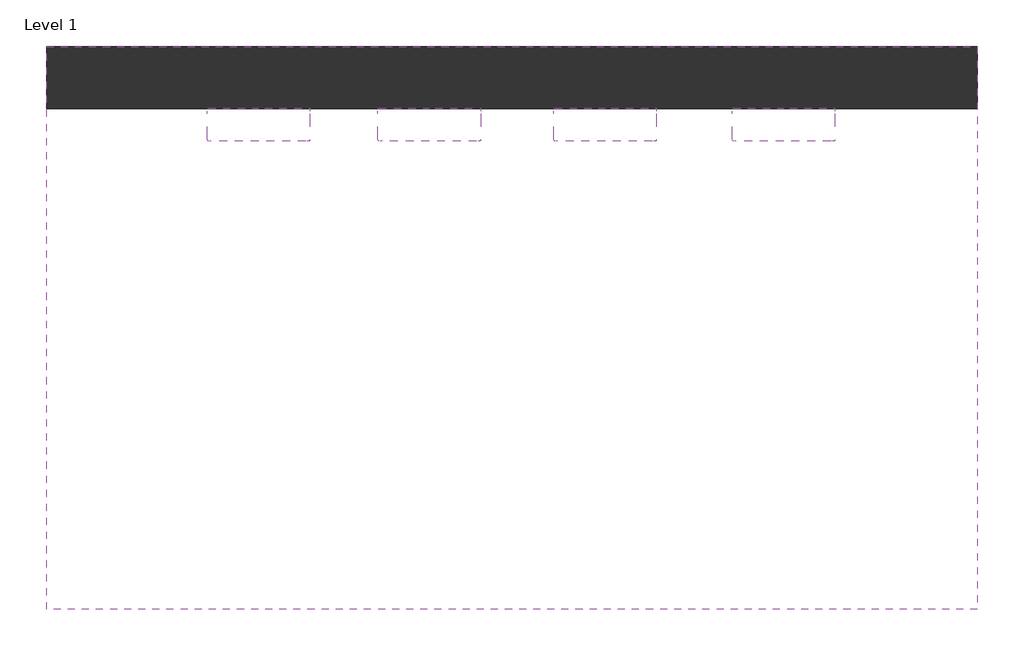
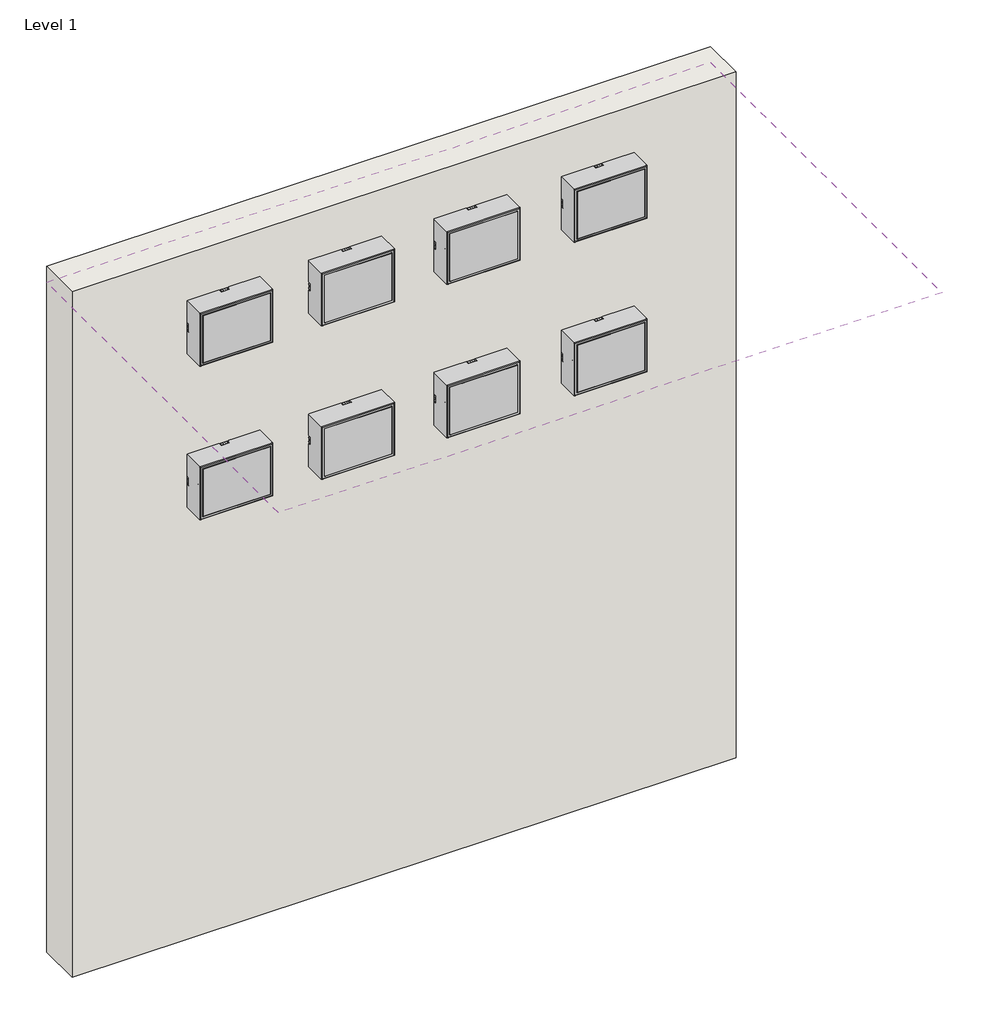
# One storey: 8 proxies, 1 covering, 1 wall.
"""IFC4 building model written with IfcOpenShell, lengths in millimetres."""

import ifcopenshell
import ifcopenshell.guid

model = None  # the IFC model being written
_history = None  # IfcOwnerHistory: only IFC2X3 demands one
_inside = {}  # id of a spatial element -> (the spatial element, [elements in it])
_under = {}  # id of a project, library or spatial element -> (it, [spatial elements below it])
_declared = {}  # id of a project -> (the project, [libraries it declares])
_typed = {}  # id of a type object -> (the type object, [elements of that type])
_made_of = {}  # id of a material, layer set ... -> (it, [elements and type objects made of it])


def new_model(schema):
    """Start an empty IFC model of exactly this schema.

    Asked for "IFC4X3", IfcOpenShell would pick the latest addendum, in which some entities
    have other attributes; the version numbers below select the first issue.
    IFC2X3 requires an IfcOwnerHistory on every rooted entity: one is made here for all.
    """
    global model, _history
    if schema == "IFC4X3":
        model = ifcopenshell.file(schema_version=(4, 3, 0, 0))
    else:
        model = ifcopenshell.file(schema=schema)
    _inside.clear()
    _under.clear()
    _declared.clear()
    _typed.clear()
    _made_of.clear()
    _history = None
    if model.schema == "IFC2X3":
        org = make("IfcOrganization", Name="unknown")
        user = make(
            "IfcPersonAndOrganization",
            ThePerson=make("IfcPerson", FamilyName="unknown"),
            TheOrganization=org,
        )
        app = make(
            "IfcApplication",
            ApplicationDeveloper=org,
            Version="unknown",
            ApplicationFullName="unknown",
            ApplicationIdentifier="unknown",
        )
        _history = make(
            "IfcOwnerHistory",
            OwningUser=user,
            OwningApplication=app,
            ChangeAction="ADDED",
            CreationDate=0,
        )
    return model


def make(cls, **values):
    """One entity of the class cls with the attributes given. An attribute that is None is left unset."""
    return model.create_entity(
        cls, **{name: value for name, value in values.items() if value is not None}
    )


def rooted(cls, **values):
    """An entity with a GlobalId (a new one), such as an element, a storey or a relation."""
    return make(cls, GlobalId=ifcopenshell.guid.new(), OwnerHistory=_history, **values)


def si_unit(unit_type, name, prefix=None):
    """IfcSIUnit, for example si_unit("LENGTHUNIT", "METRE", prefix="MILLI")."""
    return make("IfcSIUnit", UnitType=unit_type, Prefix=prefix, Name=name)


def assignment(units):
    """IfcUnitAssignment: the units of a project."""
    return None if units is None else make("IfcUnitAssignment", Units=units)


def point(xyz):
    """IfcCartesianPoint."""
    return None if xyz is None else make("IfcCartesianPoint", Coordinates=xyz)


def direction(xyz):
    """IfcDirection."""
    return None if xyz is None else make("IfcDirection", DirectionRatios=xyz)


def frame(location, z_axis=None, x_axis=None):
    """IfcAxis2Placement3D, a coordinate frame: its origin and axes. An axis left out is left unset."""
    return make(
        "IfcAxis2Placement3D",
        Location=point(location),
        Axis=direction(z_axis),
        RefDirection=direction(x_axis),
    )


def frame_2d(location, x_axis=None):
    """IfcAxis2Placement2D, a coordinate frame in the plane: its origin and x axis."""
    return make(
        "IfcAxis2Placement2D", Location=point(location), RefDirection=direction(x_axis)
    )


def origin():
    """The frame at (0, 0, 0) with its axes left unset."""
    return frame((0.0, 0.0, 0.0))


def origin_with_axes():
    """The frame at (0, 0, 0) with the z axis (0, 0, 1) and the x axis (1, 0, 0) written out."""
    return frame((0.0, 0.0, 0.0), z_axis=(0.0, 0.0, 1.0), x_axis=(1.0, 0.0, 0.0))


def place(relative_to, where):
    """IfcLocalPlacement: puts the frame where relative to a parent placement (None: the world)."""
    return make(
        "IfcLocalPlacement", PlacementRelTo=relative_to, RelativePlacement=where
    )


def context(
    kind, dimensions, precision=None, world=None, true_north=None, identifier=None
):
    """IfcGeometricRepresentationContext, for example the 3D "Model" context."""
    return make(
        "IfcGeometricRepresentationContext",
        ContextIdentifier=identifier,
        ContextType=kind,
        CoordinateSpaceDimension=dimensions,
        Precision=precision,
        WorldCoordinateSystem=world,
        TrueNorth=true_north,
    )


def project(units=None, contexts=None):
    """IfcProject with its units and contexts."""
    return rooted(
        "IfcProject",
        Name="project",
        RepresentationContexts=contexts,
        UnitsInContext=assignment(units),
    )


def spatial(cls, under=None, at=None, **own):
    """A site, building, storey or space (cls), placed at a placement, below another one or the project."""
    s = rooted(cls, ObjectPlacement=at, **own)
    if under is not None:
        _under.setdefault(under.id(), (under, []))[1].append(s)
    return s


def polyline(points):
    """IfcPolyline through the points."""
    return make("IfcPolyline", Points=[point(p) for p in points])


def circle_curve(where, radius):
    """IfcCircle in the frame where."""
    return make("IfcCircle", Position=where, Radius=radius)


def ellipse_curve(where, semi_axis1, semi_axis2):
    """IfcEllipse in the frame where."""
    return make(
        "IfcEllipse", Position=where, SemiAxis1=semi_axis1, SemiAxis2=semi_axis2
    )


def trimmed(basis, trim1, trim2, sense, master):
    """IfcTrimmedCurve: the piece of a basis curve between two trims."""
    return make(
        "IfcTrimmedCurve",
        BasisCurve=basis,
        Trim1=trim1,
        Trim2=trim2,
        SenseAgreement=sense,
        MasterRepresentation=master,
    )


def segment(curve, same_sense, transition):
    """IfcCompositeCurveSegment."""
    return make(
        "IfcCompositeCurveSegment",
        Transition=transition,
        SameSense=same_sense,
        ParentCurve=curve,
    )


def composite_curve(segments, self_intersect=None):
    """IfcCompositeCurve: segments joined end to end."""
    return make("IfcCompositeCurve", Segments=segments, SelfIntersect=self_intersect)


def outline(outer, holes=None, kind="AREA"):
    """IfcArbitraryClosedProfileDef: a profile drawn as a closed curve; with holes, ...WithVoids."""
    if holes is None:
        return make("IfcArbitraryClosedProfileDef", ProfileType=kind, OuterCurve=outer)
    return make(
        "IfcArbitraryProfileDefWithVoids",
        ProfileType=kind,
        OuterCurve=outer,
        InnerCurves=holes,
    )


def extrude(swept, where, along, depth):
    """IfcExtrudedAreaSolid: the profile swept, set in the frame where, extruded along a direction by depth."""
    return make(
        "IfcExtrudedAreaSolid",
        SweptArea=swept,
        Position=where,
        ExtrudedDirection=direction(along),
        Depth=depth,
    )


def shape(context_of_items, identifier, shape_type, items):
    """IfcShapeRepresentation: the items that make up one representation, for example the "Body"."""
    return make(
        "IfcShapeRepresentation",
        ContextOfItems=context_of_items,
        RepresentationIdentifier=identifier,
        RepresentationType=shape_type,
        Items=items,
    )


def source(mapping_origin, context_of_items, identifier, shape_type, items):
    """IfcRepresentationMap: a shape defined once, which mapped items show again and again."""
    return make(
        "IfcRepresentationMap",
        MappingOrigin=mapping_origin,
        MappedRepresentation=shape(context_of_items, identifier, shape_type, items),
    )


def transform(
    local_origin,
    x_axis=None,
    y_axis=None,
    z_axis=None,
    scale=None,
    scale2=None,
    scale3=None,
    uniform=True,
):
    """IfcCartesianTransformationOperator3D, or its non-uniform kind. x_axis, y_axis, z_axis: its Axis1, 2, 3."""
    if uniform:
        return make(
            "IfcCartesianTransformationOperator3D",
            Axis1=direction(x_axis),
            Axis2=direction(y_axis),
            LocalOrigin=point(local_origin),
            Scale=scale,
            Axis3=direction(z_axis),
        )
    return make(
        "IfcCartesianTransformationOperator3DnonUniform",
        Axis1=direction(x_axis),
        Axis2=direction(y_axis),
        LocalOrigin=point(local_origin),
        Scale=scale,
        Axis3=direction(z_axis),
        Scale2=scale2,
        Scale3=scale3,
    )


def mapped(mapping_source, mapping_target):
    """IfcMappedItem: shows the shape of a source again, moved by a transform."""
    return make(
        "IfcMappedItem", MappingSource=mapping_source, MappingTarget=mapping_target
    )


def made_of(thing, what):
    """Note that an element or type object is made of a material, layer set ...; save() writes the relation."""
    if what is not None:
        _made_of.setdefault(what.id(), (what, []))[1].append(thing)
    return thing


def element(
    cls,
    number,
    at=None,
    inside=None,
    cuts=None,
    type_object=None,
    material=None,
    context=None,
    identifier="Body",
    shape_type=None,
    held_by="IfcProductDefinitionShape",
    body=None,
    shapes=None,
    **own,
):
    """One element of the class cls, such as IfcWall. Its Tag is "e" and its number.

    at: its placement. inside: the storey or other place that contains it. cuts: it is an
    opening in that element (IfcRelVoidsElement). A single representation is given by context,
    identifier, shape_type and body (its items); several are given by shapes. held_by: the class
    of the entity that holds the representations. save() writes the other relations.
    """
    e = rooted(cls, Tag="e%d" % number, ObjectPlacement=at, **own)
    if body is not None:
        shapes = [shape(context, identifier, shape_type, body)]
    if shapes is not None:
        e.Representation = make(held_by, Representations=shapes)
    if inside is not None:
        _inside.setdefault(inside.id(), (inside, []))[1].append(e)
    if cuts is not None:
        rooted(
            "IfcRelVoidsElement", RelatingBuildingElement=cuts, RelatedOpeningElement=e
        )
    if type_object is not None:
        _typed.setdefault(type_object.id(), (type_object, []))[1].append(e)
    return made_of(e, material)


def aggregate(whole, parts):
    """IfcRelAggregates: a whole, such as a stair, and the parts it consists of."""
    return rooted("IfcRelAggregates", RelatingObject=whole, RelatedObjects=parts)


def save(model, path):
    """Write the relations noted so far, then the file.

    IfcRelAggregates (storeys below a building ...), IfcRelContainedInSpatialStructure (elements
    in a storey), IfcRelDefinesByType, IfcRelAssociatesMaterial and IfcRelDeclares: one each for
    every whole, place, type object, material and project.
    """
    for whole, parts in _under.values():
        aggregate(whole, parts)
    for where, things in _inside.values():
        rooted(
            "IfcRelContainedInSpatialStructure",
            RelatedElements=things,
            RelatingStructure=where,
        )
    for kind, things in _typed.values():
        rooted("IfcRelDefinesByType", RelatedObjects=things, RelatingType=kind)
    for what, things in _made_of.values():
        rooted("IfcRelAssociatesMaterial", RelatedObjects=things, RelatingMaterial=what)
    for by, libraries in _declared.values():
        rooted("IfcRelDeclares", RelatingContext=by, RelatedDefinitions=libraries)
    model.write(path)


def plane_surface(at):
    """IfcPlane: the flat surface through the origin of the frame at, square to its z axis."""
    return make("IfcPlane", Position=at)


def cylinder_surface(at, radius):
    """IfcCylindricalSurface: all points at the distance radius from the z axis of the frame at."""
    return make("IfcCylindricalSurface", Position=at, Radius=radius)


def revolved_surface(curve, axis_point, axis_direction):
    """IfcSurfaceOfRevolution: the curve turned about the line through axis_point along axis_direction."""
    return make(
        "IfcSurfaceOfRevolution",
        SweptCurve=make("IfcArbitraryOpenProfileDef", ProfileType="CURVE", Curve=curve),
        AxisPosition=make("IfcAxis1Placement", Location=point(axis_point), Axis=direction(axis_direction)),
    )


def advanced_brep(points, edges, surfaces, faces):
    """IfcAdvancedBrep: a solid bounded by faces that lie on surfaces and meet in shared edges.

    An edge is (start, end): straight between two places in points (the first is 0);
    or (start, end, curve); or (start, end, curve, False) where it runs against its curve.
    A face is (place in surfaces, loops), or (place, loops, False) where it looks against
    its surface's normal. A loop lists edges by number (the first is 1), with a minus sign
    where the edge is run from its end to its start. The first loop is the outer one.
    """
    corners = [point(p) for p in points]
    vertices = [make("IfcVertexPoint", VertexGeometry=c) for c in corners]
    made = []
    for start, end, *more in edges:
        made.append(
            make(
                "IfcEdgeCurve",
                EdgeStart=vertices[start],
                EdgeEnd=vertices[end],
                EdgeGeometry=more[0] if more else make("IfcPolyline", Points=[corners[start], corners[end]]),
                SameSense=more[1] if len(more) > 1 else True,
            )
        )
    hull = []
    for where, loops, *sense in faces:
        bounds = []
        for j, loop in enumerate(loops):
            ring = [make("IfcOrientedEdge", EdgeElement=made[abs(k) - 1], Orientation=k > 0) for k in loop]
            bounds.append(
                make(
                    "IfcFaceOuterBound" if j == 0 else "IfcFaceBound",
                    Bound=make("IfcEdgeLoop", EdgeList=ring),
                    Orientation=True,
                )
            )
        hull.append(make("IfcAdvancedFace", Bounds=bounds, FaceSurface=surfaces[where], SameSense=sense[0] if sense else True))
    return make("IfcAdvancedBrep", Outer=make("IfcClosedShell", CfsFaces=hull))


def communication_devices_d5c68b10(model_context):
    return source(origin(), model_context, "Body", "SolidModel", [
        extrude(outline(polyline([(115.9375, 0.0), (-115.9375, 0.0), (-115.9375, 79.3158883), (115.9375, 79.3158883), (115.9375, 0.0)])), frame((0.0, 0.0, 10.0), z_axis=(0.0, 0.0, 1.0), x_axis=(1.0, 0.0, 0.0)), (0.0, 0.0, 1.0), 172.0),
        advanced_brep(
        [(115.9375, 1.0, 182.0), (115.9375, 20.0, 182.0), (115.9375, 20.0, 10.0), (115.9375, 1.0, 10.0), (125.9375, 81.0, 192.0), (125.9375, 3.0, 192.0), (125.9375, 3.0, 0.0), (125.9375, 81.0, 0.0), (125.9375, 81.0, 84.4435161), (125.9375, 67.0, 84.4435161), (125.9375, 67.0, 114.4435161), (125.9375, 81.0, 114.4435161), (-115.9375, 20.0, 10.0), (-115.9375, 1.0, 10.0), (-125.9375, 3.0, 0.0), (-125.9375, 81.0, 0.0), (-115.9375, 20.0, 182.0), (-115.9375, 1.0, 182.0), (-125.9375, 3.0, 192.0), (-125.9375, 81.0, 192.0), (-125.9375, 81.0, 114.4435161), (-125.9375, 67.0, 114.4435161), (-125.9375, 67.0, 84.4435161), (-125.9375, 81.0, 84.4435161), (-125.1728092, 81.0, 84.4435161), (-125.1728092, 81.0, 114.4435161), (-15.0, 81.0, 192.0), (-15.0, 81.0, 191.2353092), (15.0, 81.0, 191.2353092), (15.0, 81.0, 192.0), (125.1728092, 81.0, 114.4435161), (125.1728092, 81.0, 84.4435161), (123.5504381, 81.0, 189.6129381), (-123.5504381, 81.0, 189.6129381), (-123.5504381, 81.0, 2.3870619), (123.5504381, 81.0, 2.3870619), (122.9375, 0.0, 189.0), (-122.9375, 0.0, 189.0), (-122.9375, 0.0, 3.0), (122.9375, 0.0, 3.0), (116.9375, 0.0, 9.0), (-116.9375, 0.0, 9.0), (-116.9375, 0.0, 183.0), (116.9375, 0.0, 183.0), (15.0, 67.0, 192.0), (-15.0, 67.0, 192.0), (123.5504381, 20.0, 2.3870619), (123.5504381, 20.0, 189.6129381), (-123.5504381, 20.0, 2.3870619), (-123.5504381, 20.0, 189.6129381), (-15.0, 67.0, 191.2353092), (15.0, 67.0, 191.2353092), (-3.2462961, 74.5017436, 191.2353092), (-11.2462961, 74.5017436, 191.2353092), (11.2462961, 74.5017436, 191.2353092), (3.2462961, 74.5017436, 191.2353092), (-11.2462961, 74.5017436, 191.0035436), (-3.2462961, 74.5017436, 191.0035436), (3.2462961, 74.5017436, 191.0035436), (11.2462961, 74.5017436, 191.0035436), (-125.1728092, 67.0, 84.4435161), (-125.1728092, 67.0, 114.4435161), (-125.1728092, 74.5017436, 96.19722), (-125.1728092, 74.5017436, 88.19722), (-125.1728092, 74.5017436, 110.6898121), (-125.1728092, 74.5017436, 102.6898121), (-124.9410436, 74.5017436, 88.19722), (-124.9410436, 74.5017436, 96.19722), (-124.9410436, 74.5017436, 102.6898121), (-124.9410436, 74.5017436, 110.6898121), (125.1728092, 67.0, 114.4435161), (125.1728092, 67.0, 84.4435161), (125.1728092, 74.5017436, 88.19722), (125.1728092, 74.5017436, 96.19722), (125.1728092, 74.5017436, 102.6898121), (125.1728092, 74.5017436, 110.6898121), (124.9410436, 74.5017436, 88.19722), (124.9410436, 74.5017436, 96.19722), (124.9410436, 74.5017436, 102.6898121), (124.9410436, 74.5017436, 110.6898121)],
        [
            (0, 1),
            (1, 2),
            (2, 3),
            (3, 0),
            (4, 5),
            (5, 6),
            (6, 7),
            (7, 8),
            (8, 9),
            (9, 10),
            (10, 11),
            (11, 4),
            (2, 12),
            (12, 13),
            (13, 3),
            (6, 14),
            (14, 15),
            (15, 7),
            (12, 16),
            (16, 17),
            (17, 13),
            (14, 18),
            (18, 19),
            (19, 20),
            (20, 21),
            (21, 22),
            (22, 23),
            (23, 15),
            (23, 24),
            (24, 25),
            (25, 20),
            (19, 26),
            (26, 27),
            (27, 28),
            (28, 29),
            (29, 4),
            (11, 30),
            (30, 31),
            (31, 8),
            (32, 33),
            (33, 34),
            (34, 35),
            (35, 32),
            (0, 17),
            (16, 1),
            (36, 37),
            (37, 38),
            (38, 39),
            (39, 36),
            (40, 41),
            (41, 42),
            (42, 43),
            (43, 40),
            (29, 44),
            (44, 45),
            (45, 26),
            (18, 5),
            (5, 36, ellipse_curve(frame((122.9375, 3.0, 189.0), z_axis=(0.7071067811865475, 0.0, -0.7071067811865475), x_axis=(0.7071067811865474, 0.0, 0.7071067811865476)), 4.2426407, 3.0)),
            (39, 6, ellipse_curve(frame((122.9375, 3.0, 3.0), z_axis=(0.7071067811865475, 0.0, 0.7071067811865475), x_axis=(-0.7071067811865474, 0.0, 0.7071067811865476)), 4.2426407, 3.0)),
            (38, 14, ellipse_curve(frame((-122.9375, 3.0, 3.0), z_axis=(0.7071067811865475, 0.0, -0.7071067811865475), x_axis=(0.7071067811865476, 0.0, 0.7071067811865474)), 4.2426407, 3.0)),
            (37, 18, ellipse_curve(frame((-122.9375, 3.0, 189.0), z_axis=(-0.7071067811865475, 0.0, -0.7071067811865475), x_axis=(0.7071067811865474, 0.0, -0.7071067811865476)), 4.2426407, 3.0)),
            (3, 40, ellipse_curve(frame((116.9375, 1.0, 9.0), z_axis=(0.7071067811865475, 0.0, 0.7071067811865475), x_axis=(-0.7071067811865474, 0.0, 0.7071067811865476)), 1.4142136, 1.0)),
            (43, 0, ellipse_curve(frame((116.9375, 1.0, 183.0), z_axis=(0.7071067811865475, 0.0, -0.7071067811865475), x_axis=(0.7071067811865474, 0.0, 0.7071067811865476)), 1.4142136, 1.0)),
            (13, 41, ellipse_curve(frame((-116.9375, 1.0, 9.0), z_axis=(0.7071067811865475, 0.0, -0.7071067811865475), x_axis=(0.7071067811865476, 0.0, 0.7071067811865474)), 1.4142136, 1.0)),
            (17, 42, ellipse_curve(frame((-116.9375, 1.0, 183.0), z_axis=(-0.7071067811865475, 0.0, -0.7071067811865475), x_axis=(0.7071067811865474, 0.0, -0.7071067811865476)), 1.4142136, 1.0)),
            (35, 46),
            (46, 47),
            (47, 32),
            (34, 48),
            (48, 46),
            (33, 49),
            (49, 48),
            (47, 49),
            (27, 50),
            (50, 51),
            (51, 28),
            (52, 53, circle_curve(frame((-7.2462961, 74.5017436, 191.2353092), z_axis=(0.0, 0.0, -1.0), x_axis=(1.0, 0.0, 0.0)), 4.0)),
            (53, 52, circle_curve(frame((-7.2462961, 74.5017436, 191.2353092), z_axis=(0.0, 0.0, -1.0), x_axis=(1.0, 0.0, 0.0)), 4.0)),
            (54, 55, circle_curve(frame((7.2462961, 74.5017436, 191.2353092), z_axis=(0.0, 0.0, -1.0), x_axis=(1.0, 0.0, 0.0)), 4.0)),
            (55, 54, circle_curve(frame((7.2462961, 74.5017436, 191.2353092), z_axis=(0.0, 0.0, -1.0), x_axis=(1.0, 0.0, 0.0)), 4.0)),
            (45, 50),
            (44, 51),
            (56, 57, circle_curve(frame((-7.2462961, 74.5017436, 191.0035436), z_axis=(0.0, 0.0, 1.0), x_axis=(1.0, 0.0, 0.0)), 4.0)),
            (57, 56, circle_curve(frame((-7.2462961, 74.5017436, 191.0035436), z_axis=(0.0, 0.0, 1.0), x_axis=(1.0, 0.0, 0.0)), 4.0)),
            (58, 59, circle_curve(frame((7.2462961, 74.5017436, 191.0035436), z_axis=(0.0, 0.0, 1.0), x_axis=(1.0, 0.0, 0.0)), 4.0)),
            (59, 58, circle_curve(frame((7.2462961, 74.5017436, 191.0035436), z_axis=(0.0, 0.0, 1.0), x_axis=(1.0, 0.0, 0.0)), 4.0)),
            (56, 53),
            (52, 57),
            (58, 55),
            (54, 59),
            (60, 61),
            (61, 25),
            (24, 60),
            (62, 63, circle_curve(frame((-125.1728092, 74.5017436, 92.19722), z_axis=(1.0, 0.0, 0.0), x_axis=(0.0, 0.0, 1.0)), 4.0)),
            (63, 62, circle_curve(frame((-125.1728092, 74.5017436, 92.19722), z_axis=(1.0, 0.0, 0.0), x_axis=(0.0, 0.0, 1.0)), 4.0)),
            (64, 65, circle_curve(frame((-125.1728092, 74.5017436, 106.6898121), z_axis=(1.0, 0.0, 0.0), x_axis=(0.0, 0.0, 1.0)), 4.0)),
            (65, 64, circle_curve(frame((-125.1728092, 74.5017436, 106.6898121), z_axis=(1.0, 0.0, 0.0), x_axis=(0.0, 0.0, 1.0)), 4.0)),
            (22, 60),
            (21, 61),
            (66, 67, circle_curve(frame((-124.9410436, 74.5017436, 92.19722), z_axis=(-1.0, 0.0, 0.0), x_axis=(0.0, 0.0, 1.0)), 4.0)),
            (67, 66, circle_curve(frame((-124.9410436, 74.5017436, 92.19722), z_axis=(-1.0, 0.0, 0.0), x_axis=(0.0, 0.0, 1.0)), 4.0)),
            (68, 69, circle_curve(frame((-124.9410436, 74.5017436, 106.6898121), z_axis=(-1.0, 0.0, 0.0), x_axis=(0.0, 0.0, 1.0)), 4.0)),
            (69, 68, circle_curve(frame((-124.9410436, 74.5017436, 106.6898121), z_axis=(-1.0, 0.0, 0.0), x_axis=(0.0, 0.0, 1.0)), 4.0)),
            (66, 63),
            (62, 67),
            (68, 65),
            (64, 69),
            (70, 71),
            (71, 31),
            (30, 70),
            (72, 73, circle_curve(frame((125.1728092, 74.5017436, 92.19722), z_axis=(-1.0, 0.0, 0.0), x_axis=(0.0, 0.0, 1.0)), 4.0)),
            (73, 72, circle_curve(frame((125.1728092, 74.5017436, 92.19722), z_axis=(-1.0, 0.0, 0.0), x_axis=(0.0, 0.0, 1.0)), 4.0)),
            (74, 75, circle_curve(frame((125.1728092, 74.5017436, 106.6898121), z_axis=(-1.0, 0.0, 0.0), x_axis=(0.0, 0.0, 1.0)), 4.0)),
            (75, 74, circle_curve(frame((125.1728092, 74.5017436, 106.6898121), z_axis=(-1.0, 0.0, 0.0), x_axis=(0.0, 0.0, 1.0)), 4.0)),
            (71, 9),
            (70, 10),
            (76, 77, circle_curve(frame((124.9410436, 74.5017436, 92.19722), z_axis=(1.0, 0.0, 0.0), x_axis=(0.0, 0.0, 1.0)), 4.0)),
            (77, 76, circle_curve(frame((124.9410436, 74.5017436, 92.19722), z_axis=(1.0, 0.0, 0.0), x_axis=(0.0, 0.0, 1.0)), 4.0)),
            (78, 79, circle_curve(frame((124.9410436, 74.5017436, 106.6898121), z_axis=(1.0, 0.0, 0.0), x_axis=(0.0, 0.0, 1.0)), 4.0)),
            (79, 78, circle_curve(frame((124.9410436, 74.5017436, 106.6898121), z_axis=(1.0, 0.0, 0.0), x_axis=(0.0, 0.0, 1.0)), 4.0)),
            (77, 73),
            (72, 76),
            (79, 75),
            (74, 78),
        ],
        [
            plane_surface(frame((115.9375, 20.0, 182.0), z_axis=(-1.0, 0.0, 0.0), x_axis=(0.0, 0.0, -1.0))),
            plane_surface(frame((125.9375, 3.0, 192.0), z_axis=(1.0, 0.0, 0.0), x_axis=(0.0, 0.0, -1.0))),
            plane_surface(frame((115.9375, 20.0, 10.0), z_axis=(0.0, 0.0, 1.0), x_axis=(-1.0, 0.0, 0.0))),
            plane_surface(frame((125.9375, 3.0, 0.0), z_axis=(0.0, 0.0, -1.0), x_axis=(-1.0, 0.0, 0.0))),
            plane_surface(frame((-115.9375, 20.0, 10.0), z_axis=(1.0, 0.0, 0.0), x_axis=(0.0, 0.0, 1.0))),
            plane_surface(frame((-125.9375, 3.0, 0.0), z_axis=(-1.0, 0.0, 0.0), x_axis=(0.0, 0.0, 1.0))),
            plane_surface(frame((-125.9375, 81.0, 192.0), z_axis=(0.0, 1.0, 0.0), x_axis=(1.0, 0.0, 0.0))),
            plane_surface(frame((-115.9375, 20.0, 182.0), z_axis=(0.0, 0.0, -1.0), x_axis=(1.0, 0.0, 0.0))),
            plane_surface(frame((-116.9375, 0.0, 183.0), z_axis=(0.0, -1.0, 0.0), x_axis=(1.0, 0.0, 0.0))),
            plane_surface(frame((-125.9375, 3.0, 192.0), z_axis=(0.0, 0.0, 1.0), x_axis=(1.0, 0.0, 0.0))),
            cylinder_surface(frame((122.9375, 3.0, 192.0), z_axis=(0.0, 0.0, 1.0), x_axis=(1.0, 0.0, 0.0)), 3.0),
            cylinder_surface(frame((125.9375, 3.0, 3.0), z_axis=(1.0, 0.0, 0.0), x_axis=(0.0, 0.0, -1.0)), 3.0),
            cylinder_surface(frame((-122.9375, 3.0, 0.0), z_axis=(0.0, 0.0, -1.0), x_axis=(-1.0, 0.0, 0.0)), 3.0),
            cylinder_surface(frame((-125.9375, 3.0, 189.0), z_axis=(-1.0, 0.0, 0.0), x_axis=(0.0, 0.0, 1.0)), 3.0),
            cylinder_surface(frame((116.9375, 1.0, 192.0), z_axis=(0.0, 0.0, 1.0), x_axis=(1.0, 0.0, 0.0)), 1.0),
            cylinder_surface(frame((125.9375, 1.0, 9.0), z_axis=(1.0, 0.0, 0.0), x_axis=(0.0, 0.0, -1.0)), 1.0),
            cylinder_surface(frame((-116.9375, 1.0, 0.0), z_axis=(0.0, 0.0, -1.0), x_axis=(-1.0, 0.0, 0.0)), 1.0),
            cylinder_surface(frame((-125.9375, 1.0, 183.0), z_axis=(-1.0, 0.0, 0.0), x_axis=(0.0, 0.0, 1.0)), 1.0),
            plane_surface(frame((123.5504381, 81.0, 189.6129381), z_axis=(-1.0, 0.0, 0.0), x_axis=(0.0, 0.0, -1.0))),
            plane_surface(frame((123.5504381, 81.0, 2.3870619), z_axis=(0.0, 0.0, 1.0), x_axis=(-1.0, 0.0, 0.0))),
            plane_surface(frame((-123.5504381, 81.0, 2.3870619), z_axis=(1.0, 0.0, 0.0), x_axis=(0.0, 0.0, 1.0))),
            plane_surface(frame((-123.5504381, 81.0, 189.6129381), z_axis=(0.0, 0.0, -1.0), x_axis=(1.0, 0.0, 0.0))),
            plane_surface(frame((-123.5504381, 20.0, 189.6129381), z_axis=(0.0, 1.0, 0.0), x_axis=(1.0, 0.0, 0.0))),
            plane_surface(frame((-15.0, 81.0, 191.2353092), z_axis=(0.0, 0.0, 1.0), x_axis=(1.0, 0.0, 0.0))),
            plane_surface(frame((-15.0, 81.0, 192.0), z_axis=(1.0, 0.0, 0.0), x_axis=(0.0, 0.0, -1.0))),
            plane_surface(frame((-15.0, 67.0, 192.0), z_axis=(0.0, 1.0, 0.0), x_axis=(0.0, 0.0, -1.0))),
            plane_surface(frame((15.0, 67.0, 192.0), z_axis=(-1.0, 0.0, 0.0), x_axis=(0.0, 0.0, -1.0))),
            plane_surface(frame((-3.2462961, 74.5017436, 191.0035436), z_axis=(0.0, 0.0, 1.0), x_axis=(0.0, -1.0, 0.0))),
            revolved_surface(polyline([(-3.2462961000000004, 74.5017436, 191.2353092), (-3.2462961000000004, 74.5017436, 191.0035436)]), (-7.2462961, 74.5017436, 191.0035436), (0.0, 0.0, 1.0)),
            revolved_surface(polyline([(11.2462961, 74.5017436, 191.2353092), (11.2462961, 74.5017436, 191.0035436)]), (7.2462961, 74.5017436, 0.0), (0.0, 0.0, 1.0)),
            plane_surface(frame((-125.1728092, 82.0, 84.4435161), z_axis=(-1.0, 0.0, 0.0), x_axis=(0.0, 0.0, 1.0))),
            plane_surface(frame((-125.9375, 82.0, 84.4435161), z_axis=(0.0, 0.0, 1.0), x_axis=(1.0, 0.0, 0.0))),
            plane_surface(frame((-125.9375, 67.0, 84.4435161), z_axis=(0.0, 1.0, 0.0), x_axis=(1.0, 0.0, 0.0))),
            plane_surface(frame((-125.9375, 67.0, 114.4435161), z_axis=(0.0, 0.0, -1.0), x_axis=(1.0, 0.0, 0.0))),
            plane_surface(frame((-124.9410436, 74.5017436, 96.19722), z_axis=(-1.0, 0.0, 0.0), x_axis=(0.0, -1.0, 0.0))),
            revolved_surface(polyline([(-125.1728092, 74.5017436, 96.19722), (-124.9410436, 74.5017436, 96.19722)]), (-124.9410436, 74.5017436, 92.19722), (-1.0, 0.0, 0.0)),
            revolved_surface(polyline([(-125.17280920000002, 74.5017436, 110.6898121), (-124.9410436, 74.5017436, 110.6898121)]), (66.0625, 74.5017436, 106.6898121), (-1.0, 0.0, 0.0)),
            plane_surface(frame((125.1728092, 82.0, 114.4435161), z_axis=(1.0, 0.0, 0.0), x_axis=(0.0, 1.0, 0.0))),
            plane_surface(frame((125.9375, 67.0, 84.4435161), z_axis=(0.0, 0.0, 1.0), x_axis=(-1.0, 0.0, 0.0))),
            plane_surface(frame((125.9375, 67.0, 114.4435161), z_axis=(0.0, 1.0, 0.0), x_axis=(-1.0, 0.0, 0.0))),
            plane_surface(frame((125.9375, 82.0, 114.4435161), z_axis=(0.0, 0.0, -1.0), x_axis=(-1.0, 0.0, 0.0))),
            plane_surface(frame((124.9410436, 74.5017436, 96.19722), z_axis=(1.0, 0.0, 0.0), x_axis=(0.0, 1.0, 0.0))),
            revolved_surface(polyline([(125.1728092, 74.5017436, 96.19722), (124.9410436, 74.5017436, 96.19722)]), (124.9410436, 74.5017436, 92.19722), (1.0, 0.0, 0.0)),
            revolved_surface(polyline([(125.17280920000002, 74.5017436, 110.6898121), (124.9410436, 74.5017436, 110.6898121)]), (-66.0625, 74.5017436, 106.6898121), (1.0, 0.0, 0.0)),
        ],
        [
            (0, [[1, 2, 3, 4]]),
            (1, [[5, 6, 7, 8, 9, 10, 11, 12]]),
            (2, [[-3, 13, 14, 15]]),
            (3, [[-7, 16, 17, 18]]),
            (4, [[-14, 19, 20, 21]]),
            (5, [[-17, 22, 23, 24, 25, 26, 27, 28]]),
            (6, [[-18, -28, 29, 30, 31, -24, 32, 33, 34, 35, 36, -12, 37, 38, 39, -8], [40, 41, 42, 43]]),
            (7, [[-1, 44, -20, 45]]),
            (8, [[46, 47, 48, 49], [50, 51, 52, 53]]),
            (9, [[-5, -36, 54, 55, 56, -32, -23, 57]]),
            (10, [[-6, 58, -49, 59]]),
            (11, [[-16, -59, -48, 60]]),
            (12, [[-22, -60, -47, 61]]),
            (13, [[-46, -58, -57, -61]]),
            (14, [[-4, 62, -53, 63]]),
            (15, [[-15, 64, -50, -62]]),
            (16, [[-21, 65, -51, -64]]),
            (17, [[-44, -63, -52, -65]]),
            (18, [[-43, 66, 67, 68]]),
            (19, [[-42, 69, 70, -66]]),
            (20, [[-41, 71, 72, -69]]),
            (21, [[-40, -68, 73, -71]]),
            (22, [[-67, -70, -72, -73], [-2, -45, -19, -13]]),
            (23, [[74, 75, 76, -34], [77, 78], [79, 80]]),
            (24, [[-74, -33, -56, 81]]),
            (25, [[-75, -81, -55, 82]]),
            (26, [[-76, -82, -54, -35]]),
            (27, [[83, 84]]),
            (27, [[85, 86]]),
            (28, [[-83, 87, -77, 88]]),
            (28, [[-84, -88, -78, -87]]),
            (29, [[-85, 89, -79, 90]]),
            (29, [[-86, -90, -80, -89]]),
            (30, [[91, 92, -30, 93], [94, 95], [96, 97]]),
            (31, [[98, -93, -29, -27]]),
            (32, [[-91, -98, -26, 99]]),
            (33, [[-99, -25, -31, -92]]),
            (34, [[100, 101]]),
            (34, [[102, 103]]),
            (35, [[-100, 104, -94, 105]]),
            (35, [[-101, -105, -95, -104]]),
            (36, [[-102, 106, -96, 107]]),
            (36, [[-103, -107, -97, -106]]),
            (37, [[108, 109, -38, 110], [111, 112], [113, 114]]),
            (38, [[115, -9, -39, -109]]),
            (39, [[-108, 116, -10, -115]]),
            (40, [[-116, -110, -37, -11]]),
            (41, [[117, 118]]),
            (41, [[119, 120]]),
            (42, [[-118, 121, -111, 122]]),
            (42, [[-117, -122, -112, -121]]),
            (43, [[-120, 123, -113, 124]]),
            (43, [[-119, -124, -114, -123]]),
        ],
    ),
        extrude(outline(polyline([(189.6129381, -123.5504381), (2.3870619, -123.5504381), (2.3870619, 123.5504381), (189.6129381, 123.5504381), (189.6129381, -123.5504381)]), holes=[composite_curve([segment(trimmed(circle_curve(frame_2d((126.3725186, -81.5622102)), 10.0), [point((126.3725186, -91.5622102))], [point((126.3725186, -71.5622102))], True, "CARTESIAN"), True, "CONTINUOUS"), segment(trimmed(circle_curve(frame_2d((126.3725186, -81.5622102)), 10.0), [point((126.3725186, -71.5622102))], [point((126.3725186, -91.5622102))], True, "CARTESIAN"), True, "CONTINUOUS")], self_intersect=False), composite_curve([segment(polyline([(76.1958858, -83.101546), (76.1958858, -73.2286068)]), True, "CONTINUOUS"), segment(trimmed(circle_curve(frame_2d((72.1958858, -73.2286068)), 4.0), [point((76.1958858, -73.2286068))], [point((68.1958858, -73.2286068))], True, "CARTESIAN"), True, "CONTINUOUS"), segment(polyline([(68.1958858, -73.2286068), (68.1958858, -83.101546)]), True, "CONTINUOUS"), segment(trimmed(circle_curve(frame_2d((72.1958858, -83.101546)), 4.0), [point((68.1958858, -83.101546))], [point((76.1958858, -83.101546))], True, "CARTESIAN"), True, "CONTINUOUS")], self_intersect=False), composite_curve([segment(polyline([(66.2594162, 74.3349236), (77.3823554, 74.3349236)]), True, "CONTINUOUS"), segment(trimmed(circle_curve(frame_2d((77.3823554, 78.3349236)), 4.0), [point((77.3823554, 74.3349236))], [point((77.3823554, 82.3349236))], True, "CARTESIAN"), True, "CONTINUOUS"), segment(polyline([(77.3823554, 82.3349236), (66.2594162, 82.3349236)]), True, "CONTINUOUS"), segment(trimmed(circle_curve(frame_2d((66.2594162, 78.3349236)), 4.0), [point((66.2594162, 82.3349236))], [point((66.2594162, 74.3349236))], True, "CARTESIAN"), True, "CONTINUOUS")], self_intersect=False), composite_curve([segment(trimmed(circle_curve(frame_2d((76.1958858, 0.0)), 10.0), [point((76.1958858, -10.0))], [point((76.1958858, 10.0))], True, "CARTESIAN"), True, "CONTINUOUS"), segment(trimmed(circle_curve(frame_2d((76.1958858, 0.0)), 10.0), [point((76.1958858, 10.0))], [point((76.1958858, -10.0))], True, "CARTESIAN"), True, "CONTINUOUS")], self_intersect=False), composite_curve([segment(trimmed(circle_curve(frame_2d((138.75, -4.2906934)), 4.9931477), [point((138.75, -9.283841))], [point((138.75, 0.7024543))], True, "CARTESIAN"), True, "CONTINUOUS"), segment(trimmed(circle_curve(frame_2d((138.75, -4.2906934)), 4.9931477), [point((138.75, 0.7024543))], [point((138.75, -9.283841))], True, "CARTESIAN"), True, "CONTINUOUS")], self_intersect=False), composite_curve([segment(trimmed(circle_curve(frame_2d((50.0598595, -38.3356486)), 4.9931477), [point((50.0598595, -33.3425009))], [point((50.0598595, -43.3287963))], True, "CARTESIAN"), True, "CONTINUOUS"), segment(trimmed(circle_curve(frame_2d((50.0598595, -38.3356486)), 4.9931477), [point((50.0598595, -43.3287963))], [point((50.0598595, -33.3425009))], True, "CARTESIAN"), True, "CONTINUOUS")], self_intersect=False), composite_curve([segment(trimmed(circle_curve(frame_2d((43.1139324, 1.0566615)), 4.9931477), [point((43.1139324, 6.0498092))], [point((43.1139324, -3.9364861))], True, "CARTESIAN"), True, "CONTINUOUS"), segment(trimmed(circle_curve(frame_2d((43.1139324, 1.0566615)), 4.9931477), [point((43.1139324, -3.9364861))], [point((43.1139324, 6.0498092))], True, "CARTESIAN"), True, "CONTINUOUS")], self_intersect=False)]), frame((0.0, 79.0969, 0.0), z_axis=(0.0, 1.0, 0.0), x_axis=(0.0, 0.0, 1.0)), (0.0, 0.0, 1.0), 0.9031),
    ])


model = new_model("IFC4")

# Units and contexts
model_context = context("Model", 3, world=origin())
ifc_project = project(units=[si_unit("LENGTHUNIT", "METRE", prefix="MILLI")], contexts=[model_context])

# Site, building, storey
site = spatial("IfcSite", under=ifc_project)
building = spatial("IfcBuilding", under=site)
storey = spatial("IfcBuildingStorey", under=building, Name="Level 1", Elevation=0.0)

# Proxies
placement = place(None, origin())
communication_devices_shape = communication_devices_d5c68b10(model_context)
element("IfcBuildingElementProxy", 1, Name="160831 BIM Data_WA 06-165_T-Metall - EN54 : WA-06-165/T Metall-EN54", ObjectType="160831 BIM Data_WA 06-165_T-Metall - EN54 : WA-06-165/T Metall-EN54", at=placement, inside=storey, context=model_context, shape_type="MappedRepresentation", body=[
    mapped(communication_devices_shape, transform((2353.8973575, 1883.3029994, 2133.6), x_axis=(1.0, 0.0, 0.0), y_axis=(0.0, 1.0, 0.0), z_axis=(0.0, 0.0, 1.0))),
])
element("IfcBuildingElementProxy", 2, Name="160831 BIM Data_WA 06-165_T-Metall - EN54 : WA-06-165/T Metall-EN54", ObjectType="160831 BIM Data_WA 06-165_T-Metall - EN54 : WA-06-165/T Metall-EN54", at=placement, inside=storey, context=model_context, shape_type="MappedRepresentation", body=[
    mapped(communication_devices_shape, transform((2772.9973575, 1883.3029994, 2133.6), x_axis=(1.0, 0.0, 0.0), y_axis=(0.0, 1.0, 0.0), z_axis=(0.0, 0.0, 1.0))),
])
element("IfcBuildingElementProxy", 3, Name="160831 BIM Data_WA 06-165_T-Metall - EN54 : WA-06-165/T Metall-EN54", ObjectType="160831 BIM Data_WA 06-165_T-Metall - EN54 : WA-06-165/T Metall-EN54", at=placement, inside=storey, context=model_context, shape_type="MappedRepresentation", body=[
    mapped(communication_devices_shape, transform((3204.7973575, 1883.3029994, 2133.6), x_axis=(1.0, 0.0, 0.0), y_axis=(0.0, 1.0, 0.0), z_axis=(0.0, 0.0, 1.0))),
])
element("IfcBuildingElementProxy", 4, Name="160831 BIM Data_WA 06-165_T-Metall - EN54 : WA-06-165/T Metall-EN54", ObjectType="160831 BIM Data_WA 06-165_T-Metall - EN54 : WA-06-165/T Metall-EN54", at=placement, inside=storey, context=model_context, shape_type="MappedRepresentation", body=[
    mapped(communication_devices_shape, transform((3643.0899496, 1883.3029994, 2133.6), x_axis=(1.0, 0.0, 0.0), y_axis=(0.0, 1.0, 0.0), z_axis=(0.0, 0.0, 1.0))),
])
element("IfcBuildingElementProxy", 5, Name="160831 BIM Data_WA 06-165_T-Metall - EN54 : WA-06-165/T Metall-EN54", ObjectType="160831 BIM Data_WA 06-165_T-Metall - EN54 : WA-06-165/T Metall-EN54", at=placement, inside=storey, context=model_context, shape_type="MappedRepresentation", body=[
    mapped(communication_devices_shape, transform((2353.8973575, 1883.3029994, 1574.8), x_axis=(1.0, 0.0, 0.0), y_axis=(0.0, 1.0, 0.0), z_axis=(0.0, 0.0, 1.0))),
])
element("IfcBuildingElementProxy", 6, Name="160831 BIM Data_WA 06-165_T-Metall - EN54 : WA-06-165/T Metall-EN54", ObjectType="160831 BIM Data_WA 06-165_T-Metall - EN54 : WA-06-165/T Metall-EN54", at=placement, inside=storey, context=model_context, shape_type="MappedRepresentation", body=[
    mapped(communication_devices_shape, transform((2772.9973575, 1883.3029994, 1574.8), x_axis=(1.0, 0.0, 0.0), y_axis=(0.0, 1.0, 0.0), z_axis=(0.0, 0.0, 1.0))),
])
element("IfcBuildingElementProxy", 7, Name="160831 BIM Data_WA 06-165_T-Metall - EN54 : WA-06-165/T Metall-EN54", ObjectType="160831 BIM Data_WA 06-165_T-Metall - EN54 : WA-06-165/T Metall-EN54", at=placement, inside=storey, context=model_context, shape_type="MappedRepresentation", body=[
    mapped(communication_devices_shape, transform((3204.7973575, 1883.3029994, 1574.8), x_axis=(1.0, 0.0, 0.0), y_axis=(0.0, 1.0, 0.0), z_axis=(0.0, 0.0, 1.0))),
])
element("IfcBuildingElementProxy", 8, Name="160831 BIM Data_WA 06-165_T-Metall - EN54 : WA-06-165/T Metall-EN54", ObjectType="160831 BIM Data_WA 06-165_T-Metall - EN54 : WA-06-165/T Metall-EN54", at=placement, inside=storey, context=model_context, shape_type="MappedRepresentation", body=[
    mapped(communication_devices_shape, transform((3643.0899496, 1883.3029994, 1574.8), x_axis=(1.0, 0.0, 0.0), y_axis=(0.0, 1.0, 0.0), z_axis=(0.0, 0.0, 1.0))),
])

# Covering
element("IfcCovering", 9, ObjectType="2' x 4' ACT System", at=placement, inside=storey, context=model_context, shape_type="SweptSolid", body=[
    extrude(outline(polyline([(4119.1973575, 2115.5766815), (4119.1973575, 732.2741036), (1833.1973575, 732.2741036), (1833.1973575, 2115.5766815), (4119.1973575, 2115.5766815)])), frame((0.0, 0.0, 2438.4), z_axis=(0.0, 0.0, 1.0), x_axis=(1.0, 0.0, 0.0)), (0.0, 0.0, 1.0), 57.15),
])

# Wall
element("IfcWall", 10, ObjectType="Exterior - 6\" Generic", at=placement, inside=storey, context=model_context, shape_type="SweptSolid", body=[
    extrude(outline(polyline([(4119.1973575, 1963.1766815), (1833.1973575, 1963.1766815), (1833.1973575, 2115.5766815), (4119.1973575, 2115.5766815), (4119.1973575, 1963.1766815)])), origin_with_axes(), (0.0, 0.0, 1.0), 2495.55),
])

save(model, "model.ifc")
